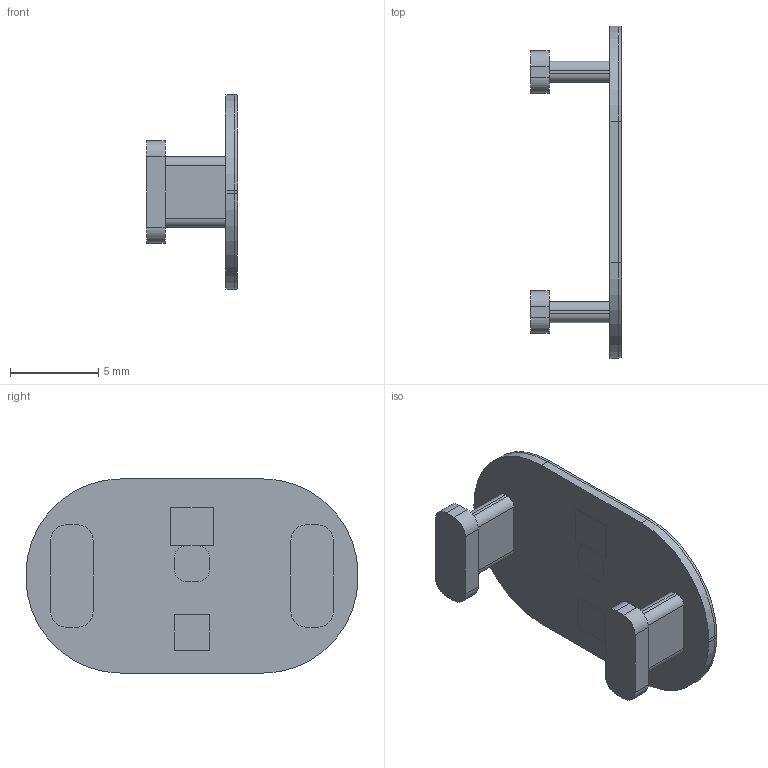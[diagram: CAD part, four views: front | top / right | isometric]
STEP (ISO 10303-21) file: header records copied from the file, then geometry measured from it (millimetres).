
FILE_DESCRIPTION(/* description */ (''),/* implementation_level */ '2;1');
FILE_NAME(/* name */ 'C28_R3_Volume_Down_Carrier_Replaceable_Contact.step',/* time_stamp */ '2026-09-10T17:48:27-07:00',/* author */ (''),/* organization */ (''),/* preprocessor_version */ 'ST-DEVELOPER v20.1',/* originating_system */ 'Autodesk Translation Framework v15.8.0.0',/* authorisation */ '');
FILE_SCHEMA (('AUTOMOTIVE_DESIGN { 1 0 10303 214 3 1 1 }'));
Length unit declared in the file: millimetre
Products named in the file (1): 2026-09-10-17-48-27-805
Bounding box: 5.15 x 18.8 x 11 mm (x, y, z)
Volume: 177.8 mm3; surface area: 527.8 mm2
Topology: 1 solids, 1 shells, 72 faces, 184 edges, 120 vertices
Faces by surface type: plane 40, cylinder 28, torus 4
Entity records: 2217 total; most frequent: DIRECTION 390, CARTESIAN_POINT 377, ORIENTED_EDGE 368, EDGE_CURVE 184, AXIS2_PLACEMENT_3D 133, LINE 124, VECTOR 124, VERTEX_POINT 120
